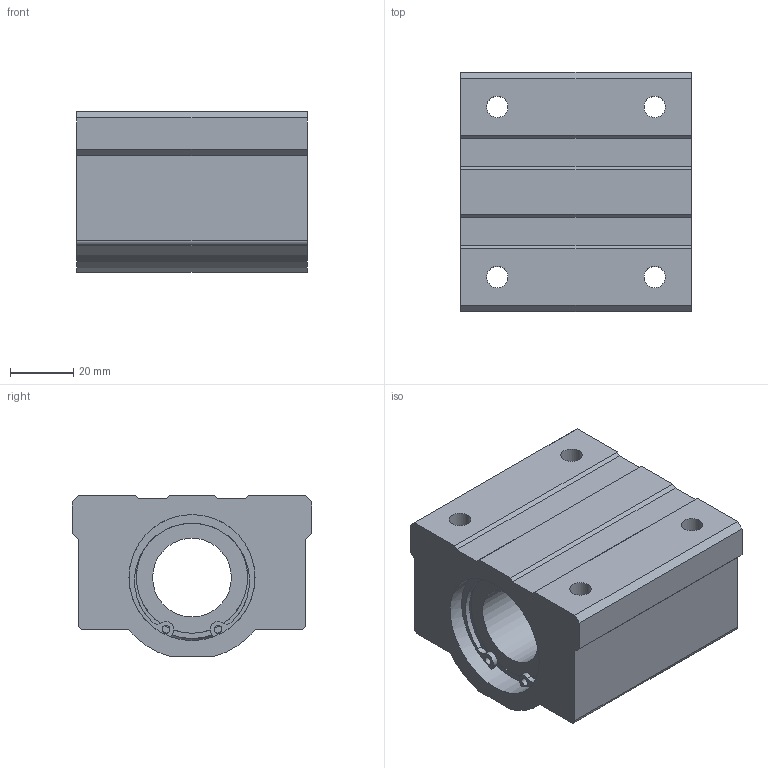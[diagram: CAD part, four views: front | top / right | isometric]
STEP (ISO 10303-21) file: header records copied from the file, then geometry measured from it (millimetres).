
FILE_DESCRIPTION((''),'2;1');
FILE_NAME('D:\製品 (図面)\カタログ用3D\リニアベアリング関連(改)\STEP形式\LH\LH25.stp','2010-01-25T10:16:24',('Tsuchiya'),(''),'Autodesk Inventor 10','Autodesk Inventor 10','');
FILE_SCHEMA(('AUTOMOTIVE_DESIGN { 1 0 10303 214 1 1 1 1 }'));
Length unit declared in the file: millimetre
Products named in the file (1): LH25
Bounding box: 73 x 76 x 51 mm (x, y, z)
Volume: 191452.9 mm3; surface area: 35220.6 mm2
Topology: 1 solids, 3 shells, 85 faces, 251 edges, 158 vertices
Faces by surface type: plane 45, cylinder 20, bspline 18, torus 2
Full cylindrical faces by diameter (mm): 2.5 x2, 25 x1, 35.3 x2, 38 x2, 40 x4
Entity records: 2824 total; most frequent: CARTESIAN_POINT 646, DIRECTION 468, ORIENTED_EDGE 424, EDGE_CURVE 212, AXIS2_PLACEMENT_3D 188, VERTEX_POINT 140, EDGE_LOOP 126, CIRCLE 120
